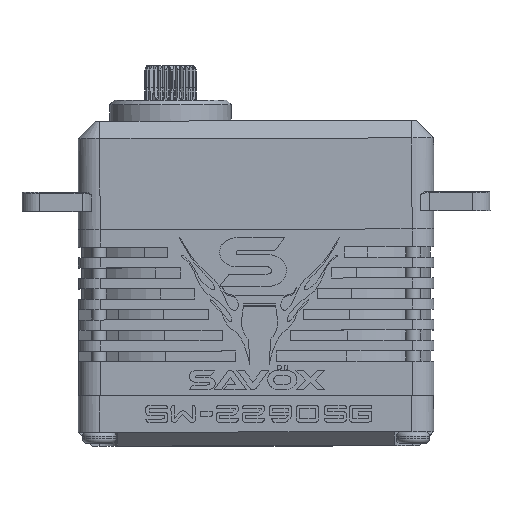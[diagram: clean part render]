
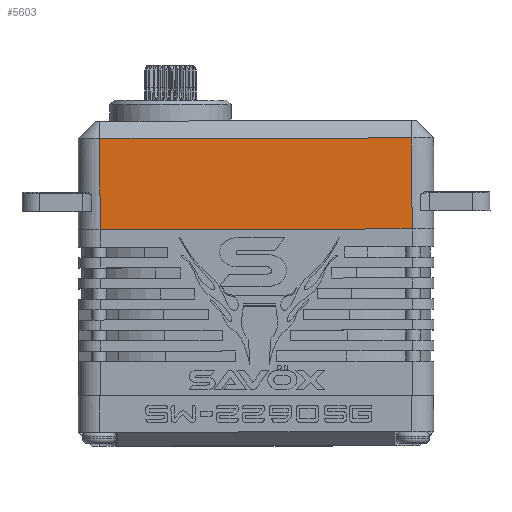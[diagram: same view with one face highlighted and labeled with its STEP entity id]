
A CAD part, top view. The second image highlights one B-rep face of the part: STEP entity #5603.
In plain terms, the highlighted planar face has unit normal (0, 0, 1).
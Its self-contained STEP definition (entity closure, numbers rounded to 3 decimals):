
#1995 = VERTEX_POINT ( 'NONE', #33152 ) ;
#2262 = ORIENTED_EDGE ( 'NONE', *, *, #46145, .F. ) ;
#3539 = DIRECTION ( 'NONE',  ( 1., 0.002, 0. ) ) ;
#4342 = VECTOR ( 'NONE', #39335, 1000. ) ;
#4610 = FACE_OUTER_BOUND ( 'NONE', #49909, .T. ) ;
#4843 = DIRECTION ( 'NONE',  ( 0., 0., 1. ) ) ;
#5603 = ADVANCED_FACE ( 'NONE', ( #4610 ), #35184, .T. ) ;
#6036 = VERTEX_POINT ( 'NONE', #7447 ) ;
#6193 = DIRECTION ( 'NONE',  ( 1., 0.002, 0. ) ) ;
#7447 = CARTESIAN_POINT ( 'NONE',  ( 27.853, -2.053, 10.5 ) ) ;
#8516 = CARTESIAN_POINT ( 'NONE',  ( -8.114, -21.314, 10.5 ) ) ;
#9798 = DIRECTION ( 'NONE',  ( -0.002, 1., 0. ) ) ;
#10001 = CARTESIAN_POINT ( 'NONE',  ( 27.853, -2.053, 10.5 ) ) ;
#11714 = AXIS2_PLACEMENT_3D ( 'NONE', #31627, #4843, #35668 ) ;
#15910 = ORIENTED_EDGE ( 'NONE', *, *, #41833, .T. ) ;
#16064 = CARTESIAN_POINT ( 'NONE',  ( 27.836, 8.447, 10.5 ) ) ;
#19063 = VECTOR ( 'NONE', #9798, 1000. ) ;
#21123 = ORIENTED_EDGE ( 'NONE', *, *, #31439, .T. ) ;
#24684 = LINE ( 'NONE', #40092, #19063 ) ;
#25583 = ORIENTED_EDGE ( 'NONE', *, *, #33909, .F. ) ;
#27823 = VERTEX_POINT ( 'NONE', #48426 ) ;
#31439 = EDGE_CURVE ( 'NONE', #27823, #6036, #37277, .T. ) ;
#31627 = CARTESIAN_POINT ( 'NONE',  ( 27.886, -21.253, 10.5 ) ) ;
#33152 = CARTESIAN_POINT ( 'NONE',  ( -8.164, 8.386, 10.5 ) ) ;
#33909 = EDGE_CURVE ( 'NONE', #1995, #42043, #49203, .T. ) ;
#35184 = PLANE ( 'NONE',  #11714 ) ;
#35553 = LINE ( 'NONE', #8516, #4342 ) ;
#35668 = DIRECTION ( 'NONE',  ( 1., 0.002, 0. ) ) ;
#37277 = LINE ( 'NONE', #10001, #39341 ) ;
#38375 = CARTESIAN_POINT ( 'NONE',  ( 27.836, 8.447, 10.5 ) ) ;
#39335 = DIRECTION ( 'NONE',  ( -0.002, 1., 0. ) ) ;
#39341 = VECTOR ( 'NONE', #6193, 1000. ) ;
#40092 = CARTESIAN_POINT ( 'NONE',  ( 27.886, -21.253, 10.5 ) ) ;
#41833 = EDGE_CURVE ( 'NONE', #6036, #42043, #24684, .T. ) ;
#42043 = VERTEX_POINT ( 'NONE', #16064 ) ;
#46145 = EDGE_CURVE ( 'NONE', #27823, #1995, #35553, .T. ) ;
#48426 = CARTESIAN_POINT ( 'NONE',  ( -8.146, -2.114, 10.5 ) ) ;
#49203 = LINE ( 'NONE', #38375, #49845 ) ;
#49845 = VECTOR ( 'NONE', #3539, 1000. ) ;
#49909 = EDGE_LOOP ( 'NONE', ( #2262, #21123, #15910, #25583 ) ) ;
